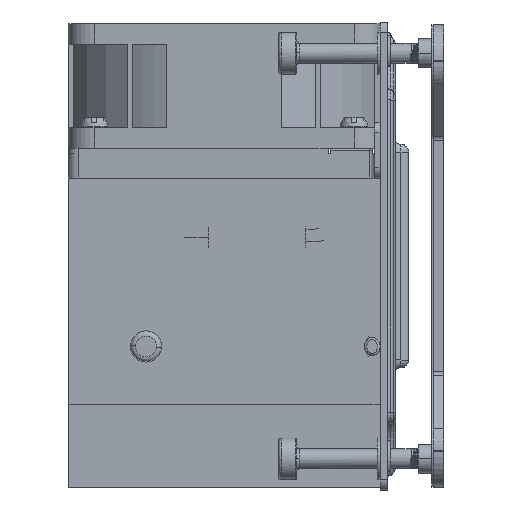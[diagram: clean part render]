
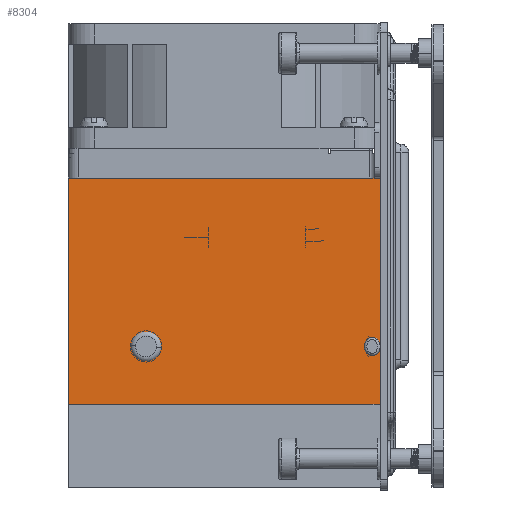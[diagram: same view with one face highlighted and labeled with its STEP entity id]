
A CAD part, left-side view. The second image highlights one B-rep face of the part: STEP entity #8304.
In plain terms, the highlighted planar face has unit normal (-1, 0, 0).
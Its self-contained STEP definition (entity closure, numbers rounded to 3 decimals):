
#4620=DIRECTION('',(0.,0.,-1.));
#4621=VECTOR('',#4620,43.5);
#4622=CARTESIAN_POINT('',(-44.,1.4,15.));
#4623=LINE('',#4622,#4621);
#4624=DIRECTION('',(0.,-1.,0.));
#4625=VECTOR('',#4624,60.);
#4626=CARTESIAN_POINT('',(-44.,61.4,15.));
#4627=LINE('',#4626,#4625);
#4632=DIRECTION('',(0.,-1.,0.));
#4633=VECTOR('',#4632,60.);
#4634=CARTESIAN_POINT('',(-44.,61.4,-28.5));
#4635=LINE('',#4634,#4633);
#4700=DIRECTION('',(0.,0.,-1.));
#4701=VECTOR('',#4700,43.5);
#4702=CARTESIAN_POINT('',(-44.,61.4,15.));
#4703=LINE('',#4702,#4701);
#4836=CARTESIAN_POINT('',(-44.,1.4,-28.5));
#4837=VERTEX_POINT('',#4836);
#4838=CARTESIAN_POINT('',(-44.,1.4,15.));
#4839=VERTEX_POINT('',#4838);
#5292=CARTESIAN_POINT('',(-44.,61.4,15.));
#5293=VERTEX_POINT('',#5292);
#5294=CARTESIAN_POINT('',(-44.,61.4,-28.5));
#5295=VERTEX_POINT('',#5294);
#8291=CARTESIAN_POINT('',(-44.,1.4,-28.5));
#8292=DIRECTION('',(-1.,0.,0.));
#8293=DIRECTION('',(0.,0.,1.));
#8294=AXIS2_PLACEMENT_3D('',#8291,#8292,#8293);
#8295=PLANE('',#8294);
#8296=ORIENTED_EDGE('',*,*,#5440,.T.);
#8298=ORIENTED_EDGE('',*,*,#8297,.F.);
#8300=ORIENTED_EDGE('',*,*,#8299,.F.);
#8301=ORIENTED_EDGE('',*,*,#8283,.T.);
#8302=EDGE_LOOP('',(#8296,#8298,#8300,#8301));
#8303=FACE_OUTER_BOUND('',#8302,.F.);
#8304=ADVANCED_FACE('',(#8303),#8295,.T.);
#5440=EDGE_CURVE('',#4839,#4837,#4623,.T.);
#8283=EDGE_CURVE('',#5293,#4839,#4627,.T.);
#8297=EDGE_CURVE('',#5295,#4837,#4635,.T.);
#8299=EDGE_CURVE('',#5293,#5295,#4703,.T.);
